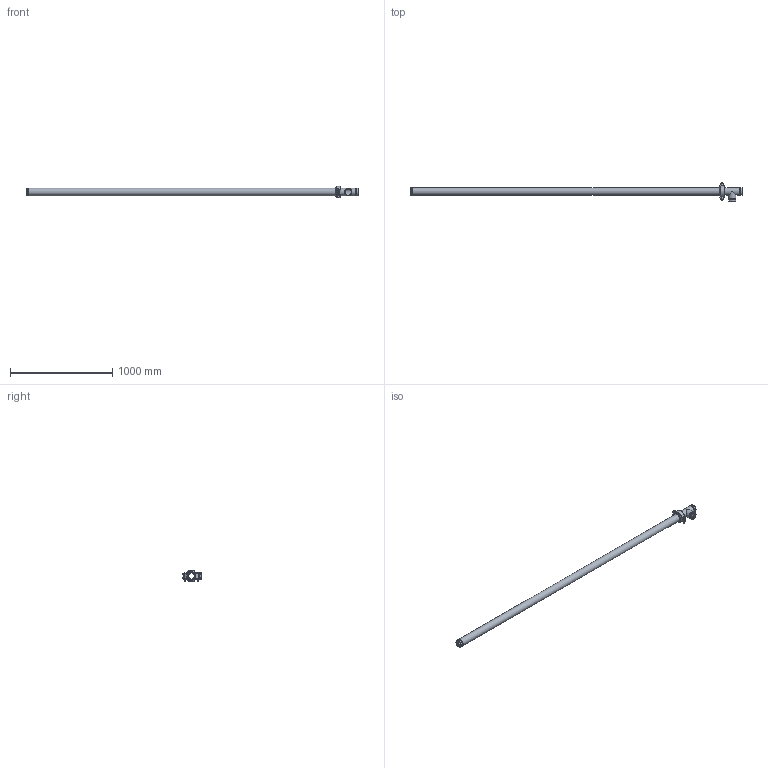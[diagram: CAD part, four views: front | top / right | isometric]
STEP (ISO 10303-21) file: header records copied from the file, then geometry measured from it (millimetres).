
FILE_DESCRIPTION(/* description */ ('VIC LONG RUN FITTING No R25 (OGS)','CAx-IF Rec.Pracs.---Representation and Presentation of Product Manufacturing Information (PMI)---4.0---2014-10-13'),/* implementation_level */ '2;1');
FILE_NAME(/* name */ 'C:\Users\Vjadhav\AppData\Roaming\Autodesk\ApplicationPlugins\Back Up\Victaulic_IPS_Long Run Fittings_No R25 (OGS)\Victaulic_IPS_Long Run Fittings_No R25 (OGS)_2.5 (65).stp',/* time_stamp */ '2020-10-14T10:38:46+05:00',/* author */ ('Vjadhav'),/* organization */ ('Victaulic'),/* preprocessor_version */ 'ST-DEVELOPER v17.2',/* originating_system */ 'Autodesk Inventor 2019',/* authorisation */ '');
FILE_SCHEMA (('AP242_MANAGED_MODEL_BASED_3D_ENGINEERING_MIM_LF { 1 0 10303 442 1 1 4 }'));
Length unit declared in the file: inch
Products named in the file (4): R25-02.5; 020-02.5; 177N-02.5; Pipe_R13-02.5
Assembly tree (3 placements, depth 2):
  R25-02.5
    020-02.5
    177N-02.5
    Pipe_R13-02.5
Bounding box: 3244.85 x 179.72 x 111.25 mm (x, y, z)
Volume: 3969993.9 mm3; surface area: 1472489.6 mm2
Topology: 3 solids, 3 shells, 122 faces, 323 edges, 222 vertices
Faces by surface type: plane 71, cylinder 41, cone 4, torus 4, sphere 2
Full cylindrical faces by diameter (mm): 12.7 x2, 19.05 x2, 60.325 x1, 62.713 x3, 69.088 x5, 73.025 x10
Entity records: 4247 total; most frequent: CARTESIAN_POINT 750, DIRECTION 711, ORIENTED_EDGE 654, EDGE_CURVE 327, AXIS2_PLACEMENT_3D 271, VERTEX_POINT 222, LINE 169, VECTOR 169
